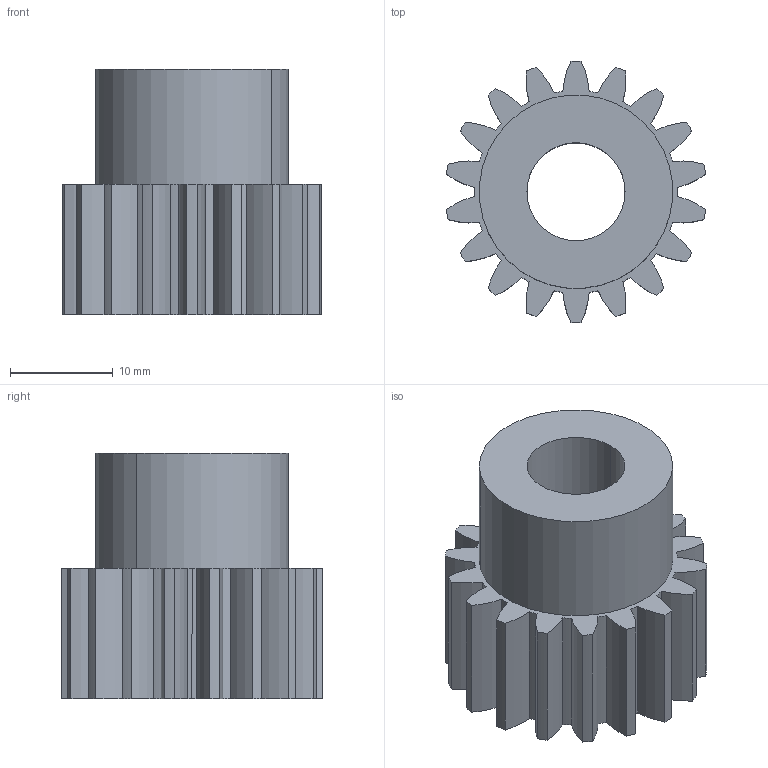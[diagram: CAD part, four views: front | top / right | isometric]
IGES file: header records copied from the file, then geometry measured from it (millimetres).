
Global section: file name: C:\Documents and Settings\Administrator\Desktop\Transfer Temp\gss-2018.igs; native system: AutoDesk Inventor R2.0 ; preprocessor: AutoDesk Inventor Iges Exporter R2.0; author: No Author specified; organization: No Organization specified; date: 20011229.165835; units: inch
Bounding box: 25.17 x 25.4 x 23.88 mm (x, y, z)
Surface area: 3863.5 mm2 (no closed solid volume)
Topology: 0 solids, 0 shells, 81 faces, 468 edges, 468 vertices
Faces by surface type: revolution 76, bspline 5
